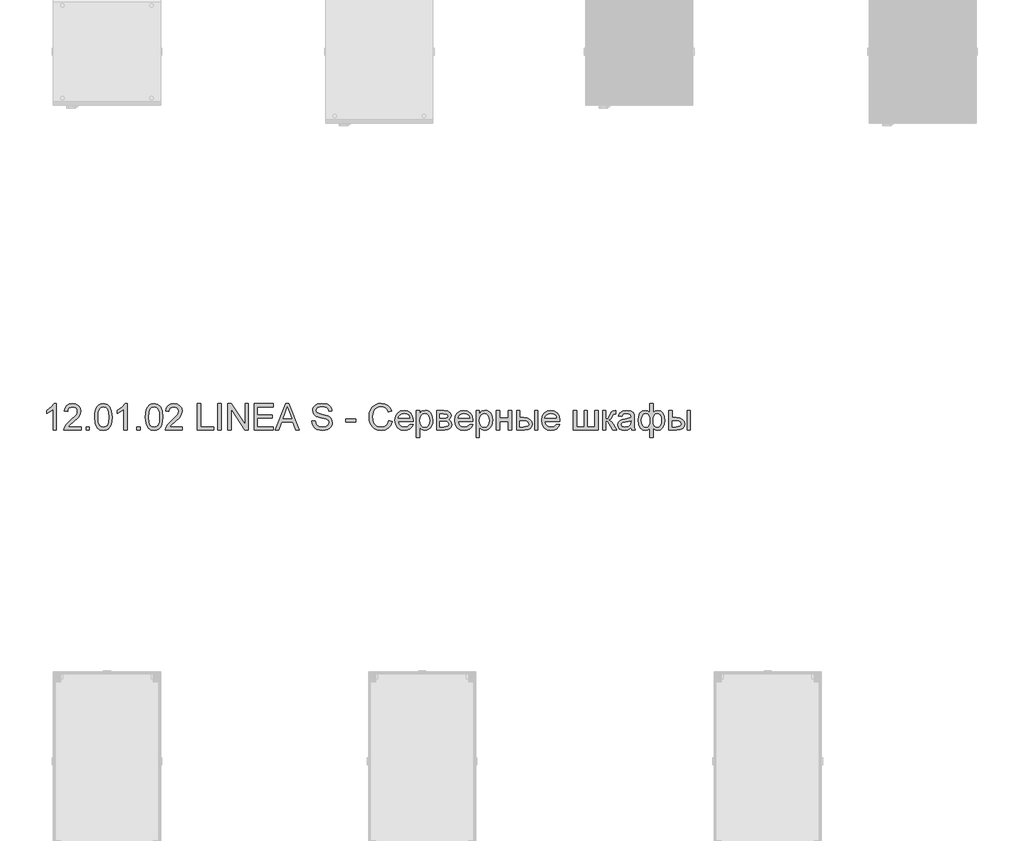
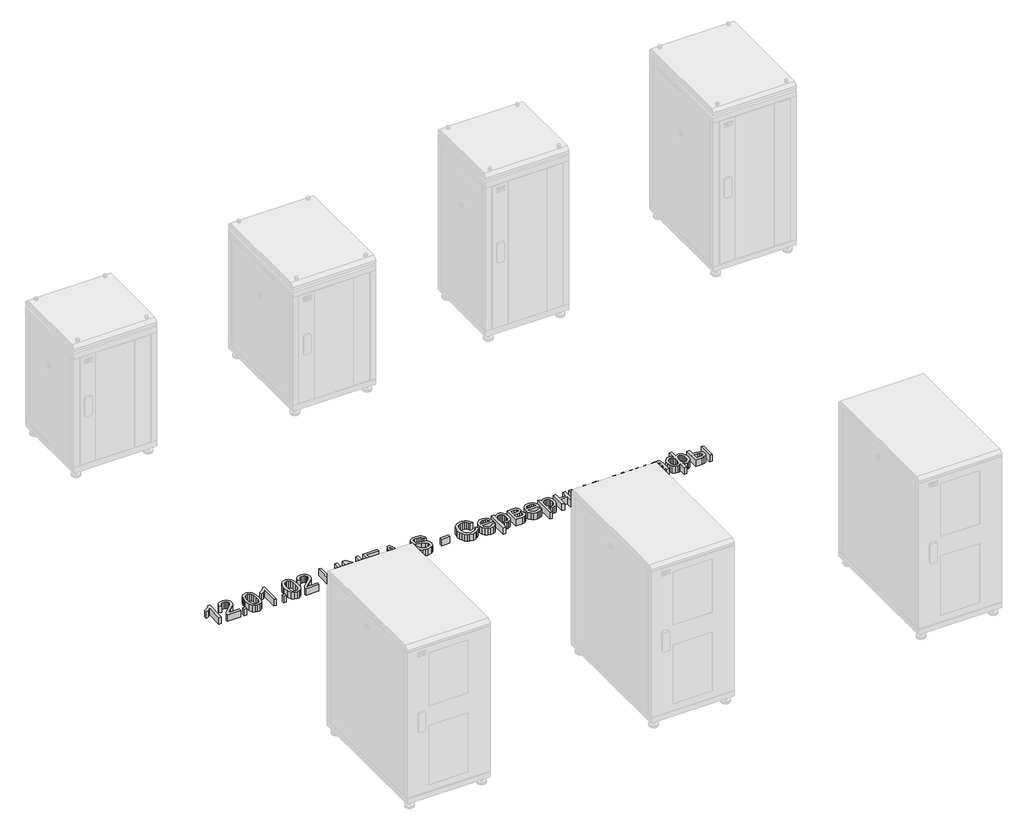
# One storey, part 8 of 9: 1 proxy.
"""IFC4 building model written with IfcOpenShell, lengths in millimetres."""

from ifc_helpers import new_model, si_unit, origin, origin_with_axes, place, context, project, spatial, polyline, outline, extrude, element, save

model = new_model("IFC4")

# Units and contexts
model_context = context("Model", 3, world=origin())
ifc_project = project(units=[si_unit("LENGTHUNIT", "METRE", prefix="MILLI")], contexts=[model_context])

# Site, building, storey
site = spatial("IfcSite", under=ifc_project)
building = spatial("IfcBuilding", under=site)
storey = spatial("IfcBuildingStorey", under=building, Name="Уровень 1", Elevation=0.0)

# Proxy
placement = place(None, origin())
element("IfcBuildingElementProxy", 1, Name="Надпись на модели 1", ObjectType="Надпись на модели 1", at=placement, inside=storey, context=model_context, shape_type="SweptSolid", body=[
    extrude(outline(polyline([(-45259.6762415, 3402.4822585), (-45278.13778, 3402.4822585), (-45278.13778, 3517.5784123), (-45295.6257608, 3505.1204797), (-45315.0608569, 3495.7995662), (-45315.0608569, 3513.2514893), (-45287.9995588, 3530.5231239), (-45271.57528, 3550.1745662), (-45259.6762415, 3550.1745662), (-45259.6762415, 3402.4822585)])), origin_with_axes(), (0.0, 0.0, 1.0), 50.0),
    extrude(outline(polyline([(-45121.2147031, 3420.943797), (-45121.2147031, 3402.4822585), (-45218.13778, 3402.4822585), (-45216.1546069, 3415.2106239), (-45204.9406646, 3434.8079797), (-45181.8276838, 3456.20822), (-45149.9526838, 3486.9654316), (-45143.9761213, 3497.5663931), (-45141.9839338, 3507.8788931), (-45143.8634411, 3517.123184), (-45149.5019627, 3524.8079797), (-45158.1693305, 3529.9867657), (-45169.1353762, 3531.7130277), (-45180.6513016, 3530.0273306), (-45189.5981165, 3524.9702393), (-45195.3718545, 3516.9383883), (-45197.3685492, 3506.3284123), (-45215.8300877, 3508.6361047), (-45211.3544266, 3526.4936768), (-45201.6774435, 3539.537547), (-45187.3039459, 3547.5153114), (-45168.7387415, 3550.1745662), (-45150.0383209, 3547.2178354), (-45135.6918665, 3538.3476431), (-45126.5647632, 3525.0964412), (-45123.5223954, 3508.9966816), (-45126.8036454, 3491.490672), (-45137.7110973, 3473.3897104), (-45164.1594146, 3448.0952393), (-45185.3973954, 3430.3368258), (-45193.7267223, 3420.943797), (-45121.2147031, 3420.943797)])), origin_with_axes(), (0.0, 0.0, 1.0), 50.0),
    extrude(outline(polyline([(-45093.5223954, 3402.4822585), (-45093.5223954, 3420.943797), (-45075.0608569, 3420.943797), (-45075.0608569, 3402.4822585), (-45093.5223954, 3402.4822585)])), origin_with_axes(), (0.0, 0.0, 1.0), 50.0),
    extrude(outline(polyline([(-45045.0608569, 3475.1385085), (-45043.7041863, 3498.778833), (-45039.6341742, 3517.6324989), (-45032.8913858, 3531.9879676), (-45023.5163858, 3542.1337008), (-45011.4415661, 3548.1643498), (-44996.5993185, 3550.1745662), (-44975.0368185, 3545.4149508), (-44960.1449915, 3531.6949989), (-44951.4911454, 3509.8440373), (-44948.13778, 3475.1385085), (-44949.480929, 3451.6334003), (-44953.5103762, 3432.8248066), (-44960.2125997, 3418.4558162), (-44969.5740781, 3408.2695181), (-44981.6759411, 3402.1983042), (-44996.5993185, 3400.1745662), (-45015.7820108, 3403.6901912), (-45030.3493185, 3414.2370662), (-45041.3829723, 3439.2160325), (-45045.0608569, 3475.1385085)]), holes=[polyline([(-45026.5993185, 3475.1745662), (-45024.4358569, 3446.1346023), (-45017.9454723, 3429.3272104), (-45008.2820108, 3421.3088811), (-44996.5993185, 3418.6361047), (-44984.9166262, 3421.3178955), (-44975.2531646, 3429.3632681), (-44968.76278, 3446.1796744), (-44966.5993185, 3475.1745662), (-44968.6906646, 3503.5609845), (-44974.9647031, 3520.4990854), (-44984.6101358, 3528.9095422), (-44996.8156646, 3531.7130277), (-45008.372155, 3529.2430758), (-45017.6570108, 3521.83322), (-45024.3637415, 3503.8404316), (-45026.5993185, 3475.1745662)])]), origin_with_axes(), (0.0, 0.0, 1.0), 50.0),
    extrude(outline(polyline([(-44862.7531646, 3402.4822585), (-44881.2147031, 3402.4822585), (-44881.2147031, 3517.5784123), (-44898.7026838, 3505.1204797), (-44918.13778, 3495.7995662), (-44918.13778, 3513.2514893), (-44891.0764819, 3530.5231239), (-44874.6522031, 3550.1745662), (-44862.7531646, 3550.1745662), (-44862.7531646, 3402.4822585)])), origin_with_axes(), (0.0, 0.0, 1.0), 50.0),
    extrude(outline(polyline([(-44809.6762415, 3402.4822585), (-44809.6762415, 3420.943797), (-44791.2147031, 3420.943797), (-44791.2147031, 3402.4822585), (-44809.6762415, 3402.4822585)])), origin_with_axes(), (0.0, 0.0, 1.0), 50.0),
    extrude(outline(polyline([(-44761.2147031, 3475.1385085), (-44759.8580324, 3498.778833), (-44755.7880204, 3517.6324989), (-44749.0452319, 3531.9879676), (-44739.6702319, 3542.1337008), (-44727.5954122, 3548.1643498), (-44712.7531646, 3550.1745662), (-44691.1906646, 3545.4149508), (-44676.2988377, 3531.6949989), (-44667.6449915, 3509.8440373), (-44664.2916262, 3475.1385085), (-44665.6347752, 3451.6334003), (-44669.6642223, 3432.8248066), (-44676.3664459, 3418.4558162), (-44685.7279242, 3408.2695181), (-44697.8297872, 3402.1983042), (-44712.7531646, 3400.1745662), (-44731.9358569, 3403.6901912), (-44746.5031646, 3414.2370662), (-44757.5368185, 3439.2160325), (-44761.2147031, 3475.1385085)]), holes=[polyline([(-44742.7531646, 3475.1745662), (-44740.5897031, 3446.1346023), (-44734.0993185, 3429.3272104), (-44724.4358569, 3421.3088811), (-44712.7531646, 3418.6361047), (-44701.0704723, 3421.3178955), (-44691.4070108, 3429.3632681), (-44684.9166262, 3446.1796744), (-44682.7531646, 3475.1745662), (-44684.8445108, 3503.5609845), (-44691.1185492, 3520.4990854), (-44700.7639819, 3528.9095422), (-44712.9695108, 3531.7130277), (-44724.5260012, 3529.2430758), (-44733.8108569, 3521.83322), (-44740.5175877, 3503.8404316), (-44742.7531646, 3475.1745662)])]), origin_with_axes(), (0.0, 0.0, 1.0), 50.0),
    extrude(outline(polyline([(-44553.5223954, 3420.943797), (-44553.5223954, 3402.4822585), (-44650.4454723, 3402.4822585), (-44648.4622992, 3415.2106239), (-44637.2483569, 3434.8079797), (-44614.1353762, 3456.20822), (-44582.2603762, 3486.9654316), (-44576.2838137, 3497.5663931), (-44574.2916262, 3507.8788931), (-44576.1711334, 3517.123184), (-44581.809655, 3524.8079797), (-44590.4770228, 3529.9867657), (-44601.4430685, 3531.7130277), (-44612.9589939, 3530.0273306), (-44621.9058088, 3524.9702393), (-44627.6795468, 3516.9383883), (-44629.6762415, 3506.3284123), (-44648.13778, 3508.6361047), (-44643.6621189, 3526.4936768), (-44633.9851358, 3539.537547), (-44619.6116382, 3547.5153114), (-44601.0464338, 3550.1745662), (-44582.3460132, 3547.2178354), (-44567.9995588, 3538.3476431), (-44558.8724555, 3525.0964412), (-44555.8300877, 3508.9966816), (-44559.1113377, 3491.490672), (-44570.0187896, 3473.3897104), (-44596.4671069, 3448.0952393), (-44617.7050877, 3430.3368258), (-44626.0344146, 3420.943797), (-44553.5223954, 3420.943797)])), origin_with_axes(), (0.0, 0.0, 1.0), 50.0),
    extrude(outline(polyline([(-44470.4454723, 3402.4822585), (-44470.4454723, 3550.1745662), (-44451.9839338, 3550.1745662), (-44451.9839338, 3420.943797), (-44378.13778, 3420.943797), (-44378.13778, 3402.4822585), (-44470.4454723, 3402.4822585)])), origin_with_axes(), (0.0, 0.0, 1.0), 50.0),
    extrude(outline(polyline([(-44355.0608569, 3402.4822585), (-44355.0608569, 3550.1745662), (-44336.5993185, 3550.1745662), (-44336.5993185, 3402.4822585), (-44355.0608569, 3402.4822585)])), origin_with_axes(), (0.0, 0.0, 1.0), 50.0),
    extrude(outline(polyline([(-44299.6762415, 3402.4822585), (-44299.6762415, 3550.1745662), (-44279.9166262, 3550.1745662), (-44202.7531646, 3433.1673547), (-44202.7531646, 3550.1745662), (-44184.2916262, 3550.1745662), (-44184.2916262, 3402.4822585), (-44204.0512415, 3402.4822585), (-44281.2147031, 3519.5255277), (-44281.2147031, 3402.4822585), (-44299.6762415, 3402.4822585)])), origin_with_axes(), (0.0, 0.0, 1.0), 50.0),
    extrude(outline(polyline([(-44151.9839338, 3402.4822585), (-44151.9839338, 3550.1745662), (-44045.8300877, 3550.1745662), (-44045.8300877, 3531.7130277), (-44133.5223954, 3531.7130277), (-44133.5223954, 3487.8668739), (-44050.4454723, 3487.8668739), (-44050.4454723, 3469.4053354), (-44133.5223954, 3469.4053354), (-44133.5223954, 3420.943797), (-44043.5223954, 3420.943797), (-44043.5223954, 3402.4822585), (-44151.9839338, 3402.4822585)])), origin_with_axes(), (0.0, 0.0, 1.0), 50.0),
    extrude(outline(polyline([(-44033.0296069, 3402.4822585), (-43974.07528, 3550.1745662), (-43958.3541262, 3550.1745662), (-43899.3997992, 3402.4822585), (-43918.9070108, 3402.4822585), (-43935.8180685, 3448.6361047), (-43996.6473954, 3448.6361047), (-44013.5223954, 3402.4822585), (-44033.0296069, 3402.4822585)]), holes=[polyline([(-43989.8685492, 3467.0976431), (-43942.5608569, 3467.0976431), (-43955.8661454, 3503.4077393), (-43966.2147031, 3531.7130277), (-43975.4094146, 3506.5808162), (-43989.8685492, 3467.0976431)])]), origin_with_axes(), (0.0, 0.0, 1.0), 50.0),
    extrude(outline(polyline([(-43828.9070108, 3453.2514893), (-43810.4454723, 3453.2514893), (-43804.4959531, 3434.771922), (-43789.9647031, 3423.0892297), (-43767.82528, 3418.6361047), (-43748.5344146, 3422.0074989), (-43736.0764819, 3431.2743258), (-43731.9839338, 3443.6601431), (-43735.0488377, 3455.1805758), (-43747.5969146, 3463.5639893), (-43774.4779242, 3470.6132681), (-43803.4142223, 3479.7178354), (-43819.1173473, 3493.4558162), (-43824.2916262, 3511.8091816), (-43822.6915661, 3522.6219821), (-43817.8913858, 3532.7046143), (-43810.0172872, 3541.2502873), (-43799.1954723, 3547.4522104), (-43771.8276838, 3552.4822585), (-43742.6209531, 3547.2178354), (-43731.4250396, 3540.7184364), (-43723.1497992, 3531.7490854), (-43717.9124194, 3520.8686768), (-43715.8300877, 3508.6361047), (-43734.2916262, 3508.6361047), (-43737.6810492, 3519.6517297), (-43744.7483569, 3527.6024508), (-43755.7910252, 3532.4161527), (-43771.10653, 3534.02072), (-43786.7826117, 3532.4341816), (-43797.5368185, 3527.6745662), (-43803.7567704, 3520.6703595), (-43805.8300877, 3512.350047), (-43804.3607367, 3505.255696), (-43799.9526838, 3499.5495662), (-43769.8084531, 3489.2370662), (-43737.1401838, 3479.9702393), (-43726.6158449, 3473.2725229), (-43719.2735973, 3465.006297), (-43713.5223954, 3444.1288931), (-43715.176542, 3432.748184), (-43720.1389819, 3422.0435566), (-43728.2068906, 3412.8308162), (-43739.1774435, 3405.9257681), (-43767.1041262, 3400.1745662), (-43785.1915661, 3401.725047), (-43800.0788858, 3406.3764893), (-43811.9373593, 3414.146922), (-43820.9382608, 3425.0543739), (-43826.716506, 3438.3416335), (-43828.9070108, 3453.2514893)])), origin_with_axes(), (0.0, 0.0, 1.0), 50.0),
    extrude(outline(polyline([(-43639.6762415, 3446.3284123), (-43639.6762415, 3464.7899508), (-43581.9839338, 3464.7899508), (-43581.9839338, 3446.3284123), (-43639.6762415, 3446.3284123)])), origin_with_axes(), (0.0, 0.0, 1.0), 50.0),
    extrude(outline(polyline([(-43397.3685492, 3454.9822585), (-43378.9070108, 3450.2226431), (-43387.4256406, 3428.7097224), (-43400.79403, 3412.9930758), (-43418.3541262, 3403.3791936), (-43439.4478762, 3400.1745662), (-43460.8616382, 3402.599446), (-43477.8673473, 3409.8740854), (-43490.9022031, 3421.7460806), (-43500.403405, 3437.9630277), (-43506.2041863, 3457.0285325), (-43508.13778, 3477.4462008), (-43505.9517824, 3498.9816575), (-43499.3937896, 3517.5784123), (-43488.8063497, 3532.6460205), (-43474.5320108, 3543.5940373), (-43457.6029242, 3550.2602032), (-43439.0512415, 3552.4822585), (-43418.8093545, 3549.6066575), (-43402.0740781, 3540.9798547), (-43389.3682488, 3527.1337008), (-43381.2147031, 3508.600047), (-43399.6762415, 3504.2010085), (-43406.0764819, 3517.6640494), (-43414.8204723, 3526.8993258), (-43426.0163858, 3532.2403715), (-43439.7723954, 3534.02072), (-43455.6287656, 3532.0465614), (-43468.6546069, 3526.1240854), (-43478.5389218, 3516.8752873), (-43484.9707127, 3504.9221623), (-43489.6762415, 3477.4822585), (-43484.1053281, 3445.6793739), (-43476.9839338, 3433.8028715), (-43466.7615781, 3425.3608643), (-43454.5064699, 3420.3172946), (-43441.2868185, 3418.6361047), (-43425.8766622, 3420.9257681), (-43413.0356165, 3427.7947585), (-43403.3406045, 3439.1709604), (-43397.3685492, 3454.9822585)])), origin_with_axes(), (0.0, 0.0, 1.0), 50.0),
    extrude(outline(polyline([(-43279.8925877, 3434.7899508), (-43261.7916262, 3432.4822585), (-43268.3135613, 3418.8434364), (-43278.7207127, 3408.6481239), (-43292.7787055, 3402.2929556), (-43310.2531646, 3400.1745662), (-43331.9148233, 3403.8299148), (-43348.5824915, 3414.7959604), (-43359.2104963, 3432.3605638), (-43362.7531646, 3455.8115854), (-43359.1744387, 3480.0513691), (-43348.4382608, 3498.1793739), (-43331.9959531, 3509.4834604), (-43311.2988377, 3513.2514893), (-43291.2462536, 3509.4924748), (-43275.2231165, 3498.2154316), (-43264.7168064, 3480.1234845), (-43261.2147031, 3455.9197585), (-43261.3228762, 3450.943797), (-43344.2916262, 3450.943797), (-43341.0960132, 3437.1246864), (-43333.6726358, 3426.9654316), (-43322.9589939, 3420.7184364), (-43309.8925877, 3418.6361047), (-43291.7916262, 3422.4942777), (-43279.8925877, 3434.7899508)]), holes=[polyline([(-43344.2916262, 3469.4053354), (-43279.6762415, 3469.4053354), (-43282.1732367, 3479.1589412), (-43287.0680685, 3486.1361047), (-43297.8312896, 3492.6264893), (-43311.3709531, 3494.7899508), (-43323.8153641, 3493.0636888), (-43334.1053281, 3487.8849027), (-43341.2582728, 3479.8124869), (-43344.2916262, 3469.4053354)])]), origin_with_axes(), (0.0, 0.0, 1.0), 50.0),
    extrude(outline(polyline([(-43242.7531646, 3360.943797), (-43242.7531646, 3510.943797), (-43224.2916262, 3510.943797), (-43224.2916262, 3492.8428354), (-43211.5272031, 3508.1493258), (-43194.2916262, 3513.2514893), (-43181.8066502, 3511.4666335), (-43170.8901838, 3506.1120662), (-43162.0019627, 3497.5123066), (-43155.6017223, 3485.9918739), (-43150.4454723, 3457.5423547), (-43151.9013016, 3441.7535926), (-43156.2687896, 3427.6324989), (-43163.4082127, 3415.89572), (-43173.1798473, 3407.2599027), (-43184.5605564, 3401.9459003), (-43196.5272031, 3400.1745662), (-43212.590905, 3404.9161527), (-43224.2916262, 3416.9053354), (-43224.2916262, 3360.943797), (-43242.7531646, 3360.943797)]), holes=[polyline([(-43224.2916262, 3455.8476431), (-43222.2949314, 3439.2971623), (-43216.3048473, 3427.7226431), (-43207.4662055, 3420.9077393), (-43196.9238377, 3418.6361047), (-43186.2101959, 3420.9888691), (-43177.1461935, 3428.0471623), (-43170.9668064, 3440.0453595), (-43168.9070108, 3457.2178354), (-43170.9172271, 3473.678172), (-43176.9478762, 3485.4149508), (-43185.7729963, 3492.4462008), (-43196.1666262, 3494.7899508), (-43206.6008209, 3492.2974628), (-43215.7639819, 3484.8199989), (-43222.1597151, 3472.591934), (-43224.2916262, 3455.8476431)])]), origin_with_axes(), (0.0, 0.0, 1.0), 50.0),
    extrude(outline(polyline([(-43129.6762415, 3510.943797), (-43089.0031646, 3510.943797), (-43066.7014819, 3508.473845), (-43054.153405, 3499.4233643), (-43048.9070108, 3483.6481239), (-43052.0800877, 3470.8296143), (-43061.6353762, 3461.6889893), (-43049.23153, 3451.6829797), (-43044.2916262, 3434.2851431), (-43047.419631, 3420.2136287), (-43054.85653, 3410.3067777), (-43066.6293665, 3404.4383883), (-43082.7651838, 3402.4822585), (-43129.6762415, 3402.4822585), (-43129.6762415, 3510.943797)]), holes=[polyline([(-43111.2147031, 3420.943797), (-43088.5704723, 3420.943797), (-43068.4863377, 3424.2791335), (-43064.3306887, 3428.8269099), (-43062.7531646, 3435.7995662), (-43065.9082127, 3444.6877873), (-43074.1293665, 3449.8620662), (-43090.3733569, 3450.943797), (-43111.2147031, 3450.943797), (-43111.2147031, 3420.943797)]), polyline([(-43111.2147031, 3469.4053354), (-43092.9695108, 3469.4053354), (-43077.9154242, 3470.3428354), (-43070.5957127, 3474.0928354), (-43067.3685492, 3480.8716816), (-43068.7838137, 3486.3794941), (-43073.0296069, 3489.9221623), (-43092.3925877, 3492.4822585), (-43111.2147031, 3492.4822585), (-43111.2147031, 3469.4053354)])]), origin_with_axes(), (0.0, 0.0, 1.0), 50.0),
    extrude(outline(polyline([(-42945.2772031, 3434.7899508), (-42927.1762415, 3432.4822585), (-42933.6981766, 3418.8434364), (-42944.1053281, 3408.6481239), (-42958.1633209, 3402.2929556), (-42975.63778, 3400.1745662), (-42997.2994387, 3403.8299148), (-43013.9671069, 3414.7959604), (-43024.5951117, 3432.3605638), (-43028.13778, 3455.8115854), (-43024.559054, 3480.0513691), (-43013.8228762, 3498.1793739), (-42997.3805685, 3509.4834604), (-42976.6834531, 3513.2514893), (-42956.6308689, 3509.4924748), (-42940.6077319, 3498.2154316), (-42930.1014218, 3480.1234845), (-42926.5993185, 3455.9197585), (-42926.7074915, 3450.943797), (-43009.6762415, 3450.943797), (-43006.4806286, 3437.1246864), (-42999.0572512, 3426.9654316), (-42988.3436093, 3420.7184364), (-42975.2772031, 3418.6361047), (-42957.1762415, 3422.4942777), (-42945.2772031, 3434.7899508)]), holes=[polyline([(-43009.6762415, 3469.4053354), (-42945.0608569, 3469.4053354), (-42947.5578521, 3479.1589412), (-42952.4526838, 3486.1361047), (-42963.215905, 3492.6264893), (-42976.7555685, 3494.7899508), (-42989.1999795, 3493.0636888), (-42999.4899435, 3487.8849027), (-43006.6428882, 3479.8124869), (-43009.6762415, 3469.4053354)])]), origin_with_axes(), (0.0, 0.0, 1.0), 50.0),
    extrude(outline(polyline([(-42908.13778, 3360.943797), (-42908.13778, 3510.943797), (-42889.6762415, 3510.943797), (-42889.6762415, 3492.8428354), (-42876.9118185, 3508.1493258), (-42859.6762415, 3513.2514893), (-42847.1912656, 3511.4666335), (-42836.2747992, 3506.1120662), (-42827.3865781, 3497.5123066), (-42820.9863377, 3485.9918739), (-42815.8300877, 3457.5423547), (-42817.285917, 3441.7535926), (-42821.653405, 3427.6324989), (-42828.7928281, 3415.89572), (-42838.5644627, 3407.2599027), (-42849.9451718, 3401.9459003), (-42861.9118185, 3400.1745662), (-42877.9755204, 3404.9161527), (-42889.6762415, 3416.9053354), (-42889.6762415, 3360.943797), (-42908.13778, 3360.943797)]), holes=[polyline([(-42889.6762415, 3455.8476431), (-42887.6795468, 3439.2971623), (-42881.6894627, 3427.7226431), (-42872.8508209, 3420.9077393), (-42862.3084531, 3418.6361047), (-42851.5948113, 3420.9888691), (-42842.5308088, 3428.0471623), (-42836.3514218, 3440.0453595), (-42834.2916262, 3457.2178354), (-42836.3018425, 3473.678172), (-42842.3324915, 3485.4149508), (-42851.1576117, 3492.4462008), (-42861.5512415, 3494.7899508), (-42871.9854363, 3492.2974628), (-42881.1485973, 3484.8199989), (-42887.5443305, 3472.591934), (-42889.6762415, 3455.8476431)])]), origin_with_axes(), (0.0, 0.0, 1.0), 50.0),
    extrude(outline(polyline([(-42795.0608569, 3510.943797), (-42776.5993185, 3510.943797), (-42776.5993185, 3469.4053354), (-42728.13778, 3469.4053354), (-42728.13778, 3510.943797), (-42709.6762415, 3510.943797), (-42709.6762415, 3402.4822585), (-42728.13778, 3402.4822585), (-42728.13778, 3450.943797), (-42776.5993185, 3450.943797), (-42776.5993185, 3402.4822585), (-42795.0608569, 3402.4822585), (-42795.0608569, 3510.943797)])), origin_with_axes(), (0.0, 0.0, 1.0), 50.0),
    extrude(outline(polyline([(-42681.9839338, 3510.943797), (-42663.5223954, 3510.943797), (-42663.5223954, 3471.7130277), (-42640.6978762, 3471.7130277), (-42620.9698113, 3469.4008282), (-42606.3529242, 3462.4642297), (-42597.3069507, 3451.4621263), (-42594.2916262, 3436.9534123), (-42596.8201718, 3423.7427753), (-42604.4058088, 3412.5964412), (-42617.5443305, 3405.0108042), (-42636.73153, 3402.4822585), (-42681.9839338, 3402.4822585), (-42681.9839338, 3510.943797)]), holes=[polyline([(-42663.5223954, 3420.943797), (-42644.5560492, 3420.943797), (-42620.0728762, 3424.8199989), (-42614.5830925, 3429.7824388), (-42612.7531646, 3436.9173547), (-42618.1798473, 3448.2755277), (-42626.8832728, 3452.0074989), (-42642.1401838, 3453.2514893), (-42663.5223954, 3453.2514893), (-42663.5223954, 3420.943797)])]), origin_with_axes(), (0.0, 0.0, 1.0), 50.0),
    extrude(outline(polyline([(-42580.4454723, 3510.943797), (-42561.9839338, 3510.943797), (-42561.9839338, 3402.4822585), (-42580.4454723, 3402.4822585), (-42580.4454723, 3510.943797)])), origin_with_axes(), (0.0, 0.0, 1.0), 50.0),
    extrude(outline(polyline([(-42458.3541262, 3434.7899508), (-42440.2531646, 3432.4822585), (-42446.7750997, 3418.8434364), (-42457.1822512, 3408.6481239), (-42471.2402439, 3402.2929556), (-42488.7147031, 3400.1745662), (-42510.3763617, 3403.8299148), (-42527.04403, 3414.7959604), (-42537.6720348, 3432.3605638), (-42541.2147031, 3455.8115854), (-42537.6359771, 3480.0513691), (-42526.8997992, 3498.1793739), (-42510.4574915, 3509.4834604), (-42489.7603762, 3513.2514893), (-42469.707792, 3509.4924748), (-42453.684655, 3498.2154316), (-42443.1783449, 3480.1234845), (-42439.6762415, 3455.9197585), (-42439.7844146, 3450.943797), (-42522.7531646, 3450.943797), (-42519.5575516, 3437.1246864), (-42512.1341742, 3426.9654316), (-42501.4205324, 3420.7184364), (-42488.3541262, 3418.6361047), (-42470.2531646, 3422.4942777), (-42458.3541262, 3434.7899508)]), holes=[polyline([(-42522.7531646, 3469.4053354), (-42458.13778, 3469.4053354), (-42460.6347752, 3479.1589412), (-42465.5296069, 3486.1361047), (-42476.2928281, 3492.6264893), (-42489.8324915, 3494.7899508), (-42502.2769026, 3493.0636888), (-42512.5668665, 3487.8849027), (-42519.7198113, 3479.8124869), (-42522.7531646, 3469.4053354)])]), origin_with_axes(), (0.0, 0.0, 1.0), 50.0),
    extrude(outline(polyline([(-42363.5223954, 3510.943797), (-42345.0608569, 3510.943797), (-42345.0608569, 3420.943797), (-42303.5223954, 3420.943797), (-42303.5223954, 3510.943797), (-42285.0608569, 3510.943797), (-42285.0608569, 3420.943797), (-42243.5223954, 3420.943797), (-42243.5223954, 3510.943797), (-42225.0608569, 3510.943797), (-42225.0608569, 3402.4822585), (-42363.5223954, 3402.4822585), (-42363.5223954, 3510.943797)])), origin_with_axes(), (0.0, 0.0, 1.0), 50.0),
    extrude(outline(polyline([(-42199.6762415, 3510.943797), (-42181.2147031, 3510.943797), (-42181.2147031, 3464.7899508), (-42168.8469146, 3468.1072585), (-42158.7147031, 3487.4341816), (-42150.2952319, 3504.1108643), (-42142.8673473, 3509.537547), (-42129.3637415, 3510.943797), (-42125.8300877, 3510.943797), (-42125.8300877, 3492.3740854), (-42130.8060492, 3492.4822585), (-42139.8204723, 3490.5351431), (-42146.1666262, 3478.3837008), (-42153.6125396, 3465.240672), (-42164.0512415, 3458.8043739), (-42152.4046069, 3451.6198787), (-42140.9743185, 3436.4846623), (-42121.2147031, 3402.4822585), (-42142.20028, 3402.4822585), (-42161.5632608, 3435.7635085), (-42171.2988377, 3449.8440373), (-42181.2147031, 3453.2514893), (-42181.2147031, 3402.4822585), (-42199.6762415, 3402.4822585), (-42199.6762415, 3510.943797)])), origin_with_axes(), (0.0, 0.0, 1.0), 50.0),
    extrude(outline(polyline([(-42040.4454723, 3416.3284123), (-42058.3481165, 3403.8163931), (-42078.1257608, 3400.1745662), (-42093.5539459, 3402.365071), (-42104.934655, 3408.9365854), (-42111.9523834, 3418.9155518), (-42114.2916262, 3431.3284123), (-42110.7579723, 3445.9317777), (-42101.4731165, 3456.5327393), (-42088.5464338, 3462.5904316), (-42072.5728762, 3465.3668739), (-42040.5536454, 3471.7130277), (-42040.4454723, 3475.8236047), (-42041.716506, 3484.0627873), (-42045.5296069, 3489.4534123), (-42054.0572512, 3493.4558162), (-42065.9382608, 3494.7899508), (-42084.6161454, 3491.2382681), (-42093.5223954, 3478.6361047), (-42111.9839338, 3480.943797), (-42103.997155, 3498.9726431), (-42087.9154242, 3509.537547), (-42063.5584531, 3513.2514893), (-42041.184655, 3509.9702393), (-42028.5464338, 3501.7310566), (-42022.8853762, 3489.2010085), (-42021.9839338, 3473.0471623), (-42021.9839338, 3450.0784123), (-42021.0464338, 3418.005095), (-42017.3685492, 3402.4822585), (-42035.8300877, 3402.4822585), (-42040.4454723, 3416.3284123)]), holes=[polyline([(-42040.4454723, 3453.2514893), (-42070.2291262, 3447.5904316), (-42086.1125396, 3444.5976431), (-42093.3060492, 3439.7298547), (-42095.8300877, 3432.6264893), (-42090.3312896, 3422.6385085), (-42074.1954723, 3418.6361047), (-42055.5175877, 3423.053172), (-42043.4743185, 3433.7442777), (-42040.5536454, 3448.0231239), (-42040.4454723, 3453.2514893)])]), origin_with_axes(), (0.0, 0.0, 1.0), 50.0),
    extrude(outline(polyline([(-41934.2916262, 3550.1745662), (-41915.8300877, 3550.1745662), (-41915.8300877, 3500.5231239), (-41904.0933088, 3510.0964412), (-41890.3372992, 3513.2514893), (-41874.1789459, 3509.240071), (-41861.7615781, 3497.2058162), (-41853.8514218, 3479.0868258), (-41851.2147031, 3456.8212008), (-41854.0542463, 3433.8749869), (-41862.5728762, 3415.8055758), (-41875.310256, 3404.0823186), (-41890.8060492, 3400.1745662), (-41902.0921069, 3401.9774508), (-41915.8300877, 3411.8212008), (-41915.8300877, 3360.943797), (-41934.2916262, 3360.943797), (-41934.2916262, 3411.8212008), (-41946.0824915, 3403.0952393), (-41960.0368185, 3400.1745662), (-41975.5055685, 3403.9065373), (-41988.8829723, 3415.1024508), (-41998.1317704, 3433.2484845), (-42001.2147031, 3457.8308162), (-41998.4247391, 3479.474446), (-41990.0548473, 3497.3139893), (-41976.9704122, 3509.2671143), (-41960.0368185, 3513.2514893), (-41945.7399435, 3510.0964412), (-41934.2916262, 3500.5231239), (-41934.2916262, 3550.1745662)]), holes=[polyline([(-41915.9382608, 3456.3885085), (-41914.4013016, 3437.6971023), (-41909.7904242, 3426.334422), (-41902.8628401, 3420.560684), (-41894.3757608, 3418.6361047), (-41884.8880805, 3421.0023907), (-41876.9058088, 3428.1012489), (-41871.4836334, 3440.185083), (-41869.6762415, 3457.506297), (-41871.3439098, 3473.9305758), (-41876.3469146, 3485.5591816), (-41883.9641021, 3492.4822585), (-41893.4743185, 3494.7899508), (-41903.2684891, 3492.3876071), (-41910.2952319, 3485.1805758), (-41914.5275036, 3473.1778715), (-41915.9382608, 3456.3885085)]), polyline([(-41982.7531646, 3458.2274508), (-41980.9052079, 3440.1174748), (-41975.3613377, 3427.9029316), (-41967.0770829, 3420.9528114), (-41957.0079723, 3418.6361047), (-41946.9884411, 3420.9392898), (-41939.8625396, 3427.848845), (-41935.6032247, 3439.3647705), (-41934.1834531, 3455.4870662), (-41935.6753401, 3472.6820782), (-41940.1510012, 3484.9642297), (-41947.6374795, 3492.3335205), (-41958.1618185, 3494.7899508), (-41968.0416262, 3492.3921143), (-41975.9022031, 3485.1986047), (-41981.0404242, 3473.6601431), (-41982.7531646, 3458.2274508)])]), origin_with_axes(), (0.0, 0.0, 1.0), 50.0),
    extrude(outline(polyline([(-41828.13778, 3510.943797), (-41809.6762415, 3510.943797), (-41809.6762415, 3471.7130277), (-41786.8517223, 3471.7130277), (-41767.1236574, 3469.4008282), (-41752.5067704, 3462.4642297), (-41743.4607968, 3451.4621263), (-41740.4454723, 3436.9534123), (-41742.974018, 3423.7427753), (-41750.559655, 3412.5964412), (-41763.6981766, 3405.0108042), (-41782.8853762, 3402.4822585), (-41828.13778, 3402.4822585), (-41828.13778, 3510.943797)]), holes=[polyline([(-41809.6762415, 3420.943797), (-41790.7098954, 3420.943797), (-41766.2267223, 3424.8199989), (-41760.7369387, 3429.7824388), (-41758.9070108, 3436.9173547), (-41764.3336935, 3448.2755277), (-41773.0371189, 3452.0074989), (-41788.29403, 3453.2514893), (-41809.6762415, 3453.2514893), (-41809.6762415, 3420.943797)])]), origin_with_axes(), (0.0, 0.0, 1.0), 50.0),
    extrude(outline(polyline([(-41726.5993185, 3510.943797), (-41708.13778, 3510.943797), (-41708.13778, 3402.4822585), (-41726.5993185, 3402.4822585), (-41726.5993185, 3510.943797)])), origin_with_axes(), (0.0, 0.0, 1.0), 50.0),
])

save(model, "model.ifc")
